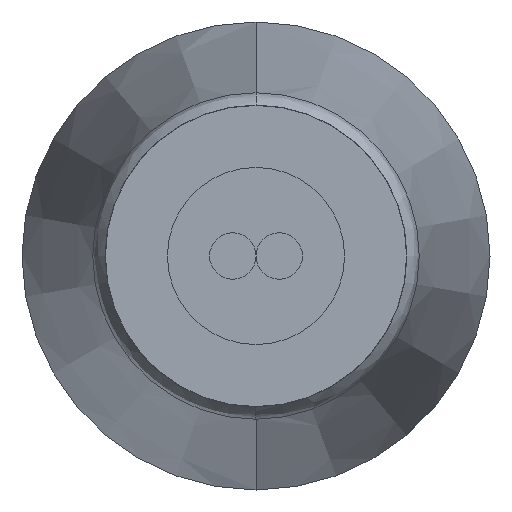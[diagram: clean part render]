
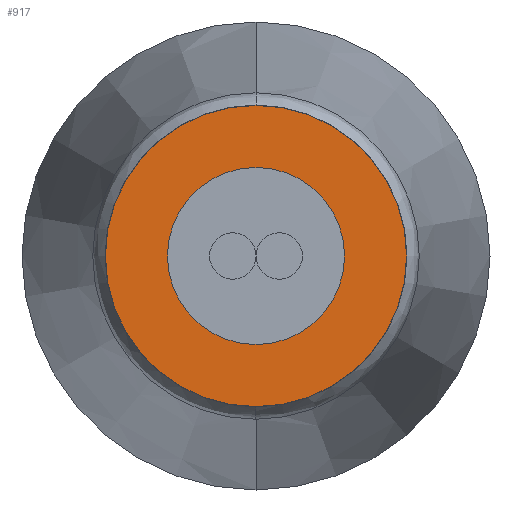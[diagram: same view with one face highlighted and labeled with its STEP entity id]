
A CAD part, front view. The second image highlights one B-rep face of the part: STEP entity #917.
In plain terms, the highlighted planar face has unit normal (0, -1, 0).
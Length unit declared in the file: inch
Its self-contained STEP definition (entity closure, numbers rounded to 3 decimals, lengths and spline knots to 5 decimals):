
#24 = AXIS2_PLACEMENT_3D ( 'NONE', #845, #846, #840 ) ;
#74 = AXIS2_PLACEMENT_3D ( 'NONE', #599, #598, #597 ) ;
#78 = AXIS2_PLACEMENT_3D ( 'NONE', #1007, #1006, #1005 ) ;
#164 = CARTESIAN_POINT ( 'NONE',  ( 0., 2.52478, 0. ) ) ;
#165 = DIRECTION ( 'NONE',  ( 0., 1., 0. ) ) ;
#166 = DIRECTION ( 'NONE',  ( 0., 0., 1. ) ) ;
#171 = CARTESIAN_POINT ( 'NONE',  ( 0., 2.52478, 0. ) ) ;
#172 = DIRECTION ( 'NONE',  ( 0., 1., 0. ) ) ;
#173 = DIRECTION ( 'NONE',  ( 0., 0., -1. ) ) ;
#418 = CIRCLE ( 'NONE', #78, 0.17859 ) ;
#437 = FACE_OUTER_BOUND ( 'NONE', #1195, .T. ) ;
#443 = FACE_BOUND ( 'NONE', #1234, .T. ) ;
#480 = CIRCLE ( 'NONE', #74, 0.105 ) ;
#514 = EDGE_CURVE ( 'NONE', #1280, #1297, #684, .T. ) ;
#517 = EDGE_CURVE ( 'NONE', #1270, #1273, #658, .T. ) ;
#524 = AXIS2_PLACEMENT_3D ( 'NONE', #164, #165, #166 ) ;
#530 = AXIS2_PLACEMENT_3D ( 'NONE', #171, #172, #173 ) ;
#597 = DIRECTION ( 'NONE',  ( 0., 0., -1. ) ) ;
#598 = DIRECTION ( 'NONE',  ( 0., 1., 0. ) ) ;
#599 = CARTESIAN_POINT ( 'NONE',  ( 0., 2.52478, 0. ) ) ;
#658 = CIRCLE ( 'NONE', #530, 0.105 ) ;
#684 = CIRCLE ( 'NONE', #524, 0.17859 ) ;
#840 = DIRECTION ( 'NONE',  ( 0., 0., 1. ) ) ;
#842 = PLANE ( 'NONE',  #24 ) ;
#845 = CARTESIAN_POINT ( 'NONE',  ( -0.105, 2.52478, 0. ) ) ;
#846 = DIRECTION ( 'NONE',  ( 0., 1., 0. ) ) ;
#917 = ADVANCED_FACE ( 'NONE', ( #443, #437 ), #842, .F. ) ;
#950 = CARTESIAN_POINT ( 'NONE',  ( 0., 2.52478, -0.17859 ) ) ;
#956 = CARTESIAN_POINT ( 'NONE',  ( 0., 2.52478, 0.17859 ) ) ;
#960 = CARTESIAN_POINT ( 'NONE',  ( 0., 2.52478, -0.105 ) ) ;
#968 = CARTESIAN_POINT ( 'NONE',  ( 0., 2.52478, 0.105 ) ) ;
#1005 = DIRECTION ( 'NONE',  ( 0., 0., 1. ) ) ;
#1006 = DIRECTION ( 'NONE',  ( 0., 1., 0. ) ) ;
#1007 = CARTESIAN_POINT ( 'NONE',  ( 0., 2.52478, 0. ) ) ;
#1094 = EDGE_CURVE ( 'NONE', #1273, #1270, #480, .T. ) ;
#1101 = EDGE_CURVE ( 'NONE', #1297, #1280, #418, .T. ) ;
#1168 = ORIENTED_EDGE ( 'NONE', *, *, #1101, .F. ) ;
#1190 = ORIENTED_EDGE ( 'NONE', *, *, #1094, .T. ) ;
#1195 = EDGE_LOOP ( 'NONE', ( #1199, #1168 ) ) ;
#1199 = ORIENTED_EDGE ( 'NONE', *, *, #514, .F. ) ;
#1234 = EDGE_LOOP ( 'NONE', ( #1190, #1347 ) ) ;
#1270 = VERTEX_POINT ( 'NONE', #968 ) ;
#1273 = VERTEX_POINT ( 'NONE', #960 ) ;
#1280 = VERTEX_POINT ( 'NONE', #956 ) ;
#1297 = VERTEX_POINT ( 'NONE', #950 ) ;
#1347 = ORIENTED_EDGE ( 'NONE', *, *, #517, .T. ) ;
